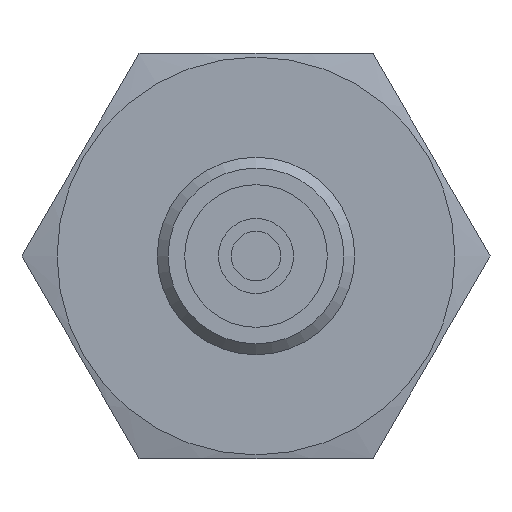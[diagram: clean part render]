
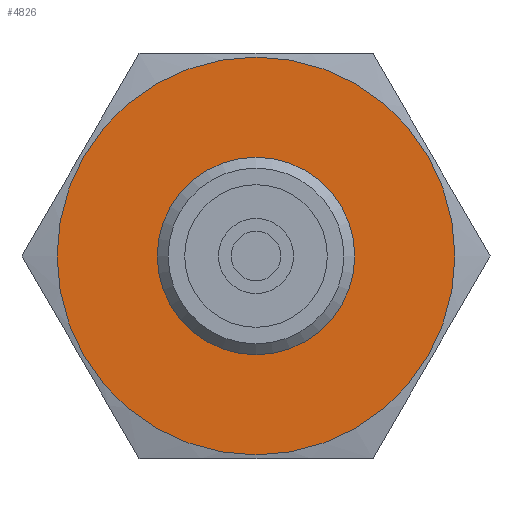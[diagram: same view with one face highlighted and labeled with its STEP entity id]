
A CAD part, left-side view. The second image highlights one B-rep face of the part: STEP entity #4826.
In plain terms, the highlighted planar face has unit normal (-1, 0, 0).
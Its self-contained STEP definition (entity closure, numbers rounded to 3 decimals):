
#1083=FACE_BOUND('',#1680,.T.);
#1304=FACE_OUTER_BOUND('',#1679,.T.);
#1679=EDGE_LOOP('',(#3785));
#1680=EDGE_LOOP('',(#3786));
#1887=CIRCLE('',#5188,13.25);
#1895=CIRCLE('',#5209,6.4);
#2210=VERTEX_POINT('',#7808);
#2218=VERTEX_POINT('',#7843);
#2755=EDGE_CURVE('',#2210,#2210,#1887,.T.);
#2769=EDGE_CURVE('',#2218,#2218,#1895,.T.);
#3785=ORIENTED_EDGE('',*,*,#2755,.F.);
#3786=ORIENTED_EDGE('',*,*,#2769,.F.);
#4288=PLANE('',#5208);
#4826=ADVANCED_FACE('',(#1304,#1083),#4288,.T.);
#5188=AXIS2_PLACEMENT_3D('',#7809,#6018,#6019);
#5208=AXIS2_PLACEMENT_3D('',#7842,#6064,#6065);
#5209=AXIS2_PLACEMENT_3D('',#7844,#6066,#6067);
#6018=DIRECTION('center_axis',(1.,0.,0.));
#6019=DIRECTION('ref_axis',(0.,-1.,0.));
#6064=DIRECTION('center_axis',(-1.,0.,0.));
#6065=DIRECTION('ref_axis',(0.,0.,-1.));
#6066=DIRECTION('center_axis',(-1.,0.,0.));
#6067=DIRECTION('ref_axis',(0.,1.,0.));
#7808=CARTESIAN_POINT('',(15.,-13.25,0.));
#7809=CARTESIAN_POINT('Origin',(15.,0.,0.));
#7842=CARTESIAN_POINT('Origin',(15.,-9.425,0.));
#7843=CARTESIAN_POINT('',(15.,-6.4,0.));
#7844=CARTESIAN_POINT('Origin',(15.,0.,0.));
